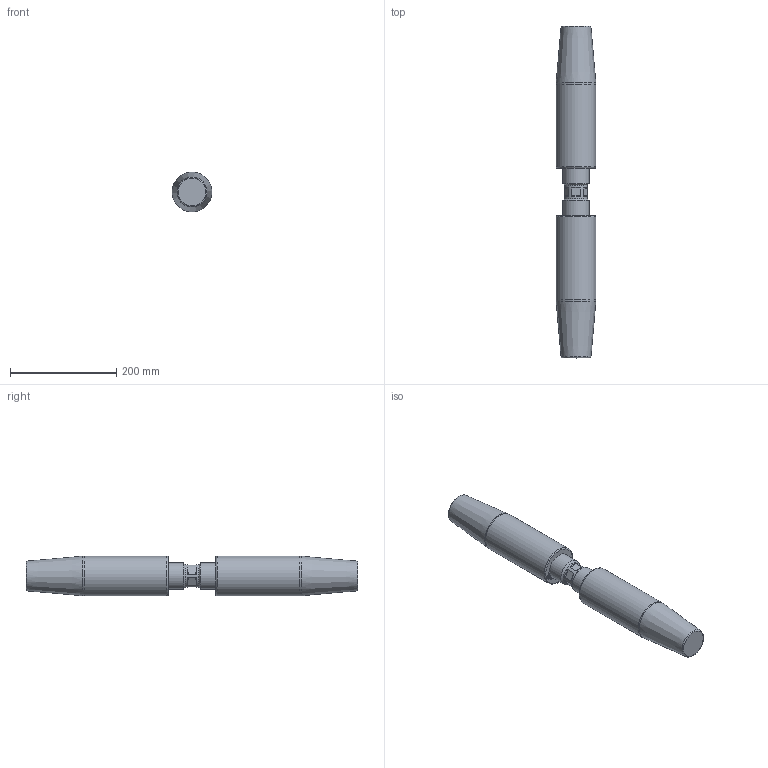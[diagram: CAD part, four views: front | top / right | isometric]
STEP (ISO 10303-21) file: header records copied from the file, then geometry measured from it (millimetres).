
FILE_DESCRIPTION(/* description */ (''),/* implementation_level */ '2;1');
FILE_NAME(/* name */ 'D:\Clienti\Redaelli (inventor)\CYA\STEP\Arrangement\CYA024 52 061 2.stp',/* time_stamp */ '2021-05-09T10:04:15+02:00',/* author */ ('fabri'),/* organization */ (''),/* preprocessor_version */ 'ST-DEVELOPER v16.13',/* originating_system */ 'Autodesk Inventor 2018',/* authorisation */ '');
FILE_SCHEMA (('AUTOMOTIVE_DESIGN { 1 0 10303 214 3 1 1 }'));
Length unit declared in the file: millimetre
Products named in the file (4): CYA012-54-062-0; TBF012-12-012-1; TBF012-13-012-0; TBF012-13-012-0_1
Assembly tree (3 placements, depth 2):
  CYA012-54-062-0
    TBF012-12-012-1
    TBF012-13-012-0
    TBF012-13-012-0_1
Bounding box: 74.95 x 624 x 74.95 mm (x, y, z)
Volume: 2659631 mm3; surface area: 181589.5 mm2
Topology: 3 solids, 3 shells, 471 faces, 1273 edges, 849 vertices
Faces by surface type: bspline 222, plane 218, cylinder 20, cone 7, torus 4
Full cylindrical faces by diameter (mm): 4.917 x1, 43 x1, 50 x2, 51 x2, 75 x2
Entity records: 16160 total; most frequent: CARTESIAN_POINT 5787, ORIENTED_EDGE 2504, DIRECTION 1345, EDGE_CURVE 1252, VERTEX_POINT 847, LINE 743, VECTOR 743, EDGE_LOOP 531
